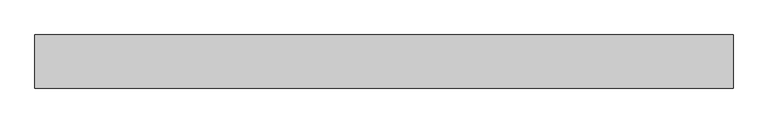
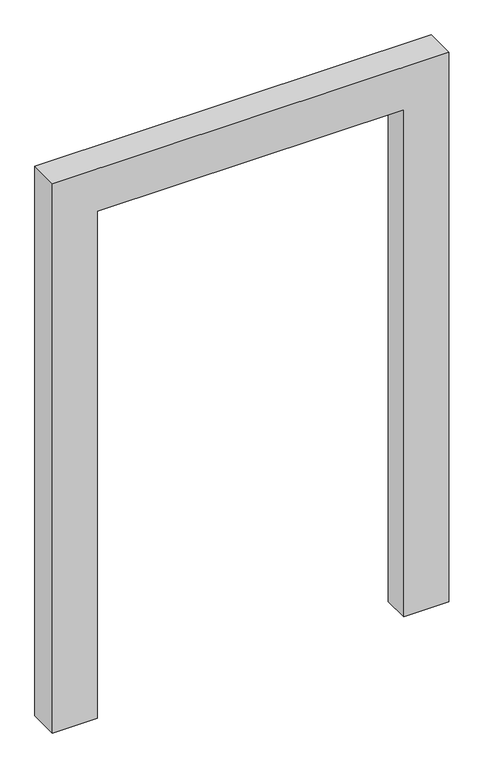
"""IFC4 building model written with IfcOpenShell, lengths in millimetres: proxy geometry, 400_35_NS_natuursteenkader_constructief : 400_35_NS_natuursteenkader_constructief."""

from ifc_helpers import new_model, si_unit, origin, place, context, project, spatial, faceted_brep, source, transform, mapped, element, save


def generic_models_4bea83f5(model_context):
    return source(origin(), model_context, "Body", "Brep", [
        faceted_brep([(-580.0, 0.0, 0.0), (-750.0, 0.0, 0.0), (-750.0, 115.0, 0.0), (-595.0, 115.0, 0.0), (-580.0, 100.0, 0.0), (-580.0, 0.0, 2030.0), (580.0, 0.0, 2030.0), (580.0, 0.0, 0.0), (750.0, 0.0, 0.0), (750.0, 0.0, 2200.0), (-750.0, 0.0, 2200.0), (-750.0, 115.0, 2200.0), (750.0, 115.0, 2200.0), (750.0, 115.0, 0.0), (595.0, 115.0, 0.0), (595.0, 115.0, 2045.0), (-595.0, 115.0, 2045.0), (-580.0, 100.0, 2030.0), (580.0, 100.0, 2030.0), (580.0, 100.0, 0.0)], [[[0, 1, 2, 3, 4]], [[1, 0, 5, 6, 7, 8, 9, 10]], [[2, 1, 10, 11]], [[3, 2, 11, 12, 13, 14, 15, 16]], [[4, 3, 16, 17]], [[0, 4, 17, 5]], [[11, 10, 9, 12]], [[17, 16, 15, 18]], [[5, 17, 18, 6]], [[7, 19, 14, 13, 8]], [[12, 9, 8, 13]], [[18, 15, 14, 19]], [[6, 18, 19, 7]]]),
    ])


if __name__ == "__main__":
    model = new_model("IFC4")
    model_context = context("Model", 3, world=origin())
    ifc_project = project(units=[si_unit("LENGTHUNIT", "METRE", prefix="MILLI")], contexts=[model_context])
    site = spatial("IfcSite", under=ifc_project)
    building = spatial("IfcBuilding", under=site)
    placement = place(None, origin())
    generic_models_shape = generic_models_4bea83f5(model_context)
    element("IfcBuildingElementProxy", 1, Name="400_35_NS_natuursteenkader_constructief : 400_35_NS_natuursteenkader_constructief", ObjectType="400_35_NS_natuursteenkader_constructief : 400_35_NS_natuursteenkader_constructief", at=placement, inside=building, context=model_context, shape_type="MappedRepresentation", body=[
        mapped(generic_models_shape, transform((0.0, 0.0, 0.0), x_axis=(1.0, 0.0, 0.0), y_axis=(0.0, 1.0, 0.0), z_axis=(0.0, 0.0, 1.0))),
    ])
    save(model, "model.ifc")
